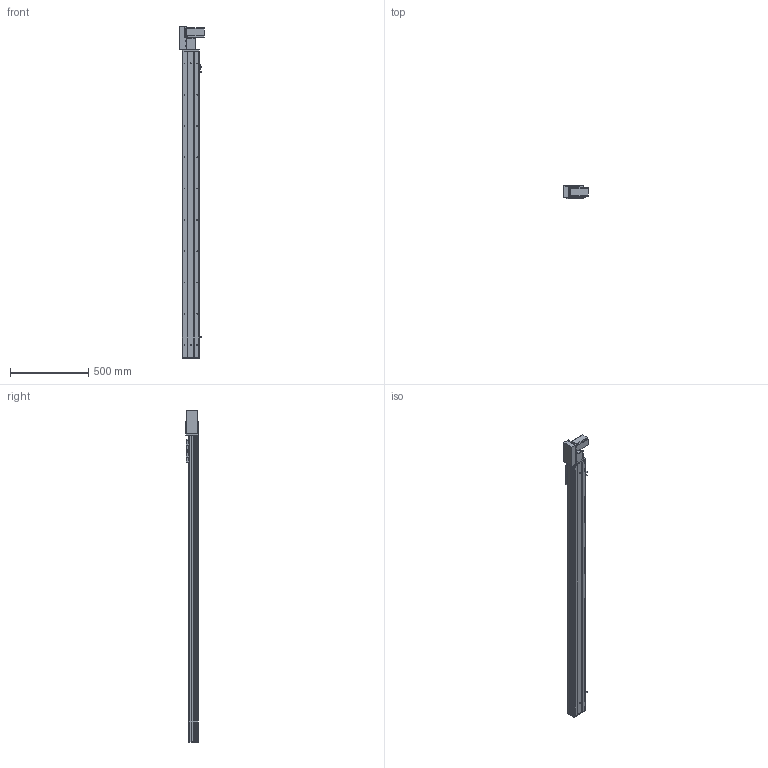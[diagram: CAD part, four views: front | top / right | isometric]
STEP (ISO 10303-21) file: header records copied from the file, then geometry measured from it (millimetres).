
FILE_DESCRIPTION (( 'STEP AP203' ), '1' );
FILE_NAME ('Y10CB-D90-S1700-BL-P400W.STEP', '2020-02-15T08:12:42', ( '微软用户' ), ( '微软中国' ), 'SwSTEP 2.0', 'SolidWorks 2017', '' );
FILE_SCHEMA (( 'CONFIG_CONTROL_DESIGN' ));
Length unit declared in the file: millimetre
Products named in the file (18): 10CB-耜裔; san松下电机400不带刹车----; Y135C-陔俋离換覜結え-; 0B-源倛裔啣; Y100-135俋离換覜ん--; 0B-埴倛裔啣; 0CB-雄赽釱---; Y10CB-D90-S1700-BL-P400W; Y俋欶BR----; 0Cb-俋欶---; 10CB-詩湍-; Y10B-々湍喘謫眊楊擘啣--; Y10CB- 掛极耜裔啣-毀---; Y10B--々湍喘謫眊--666; Y10C---詩湍揤啣; Y10B-耜蚾蟀諉啣----; 10CB9-掛极; 0B-萇儂楊擘啣
Assembly tree (21 placements, depth 2):
  Y10CB-D90-S1700-BL-P400W
    0CB-雄赽釱---
    0Cb-俋欶---
    Y10B-々湍喘謫眊楊擘啣--
    Y10B--々湍喘謫眊--666
    Y10B-耜蚾蟀諉啣----
    0B-萇儂楊擘啣
    san松下电机400不带刹车----
    0B-源倛裔啣
    0B-埴倛裔啣
    Y俋欶BR----
    10CB-詩湍-
    Y10CB- 掛极耜裔啣-毀---  x2
    Y10C---詩湍揤啣  x2
    10CB9-掛极
    10CB-耜裔
    Y135C-陔俋离換覜結え-
    Y100-135俋离換覜ん--  x3
Bounding box: 157.5 x 80.5 x 2122.5 mm (x, y, z)
Volume: 4358399.6 mm3; surface area: 2028814.2 mm2
Topology: 21 solids, 21 shells, 1026 faces, 2763 edges, 1802 vertices
Faces by surface type: cylinder 517, plane 485, cone 24
Entity records: 32404 total; most frequent: CARTESIAN_POINT 5913, DIRECTION 5198, ORIENTED_EDGE 4996, EDGE_CURVE 2498, AXIS2_PLACEMENT_3D 1857, VERTEX_POINT 1628, LINE 1484, VECTOR 1484
